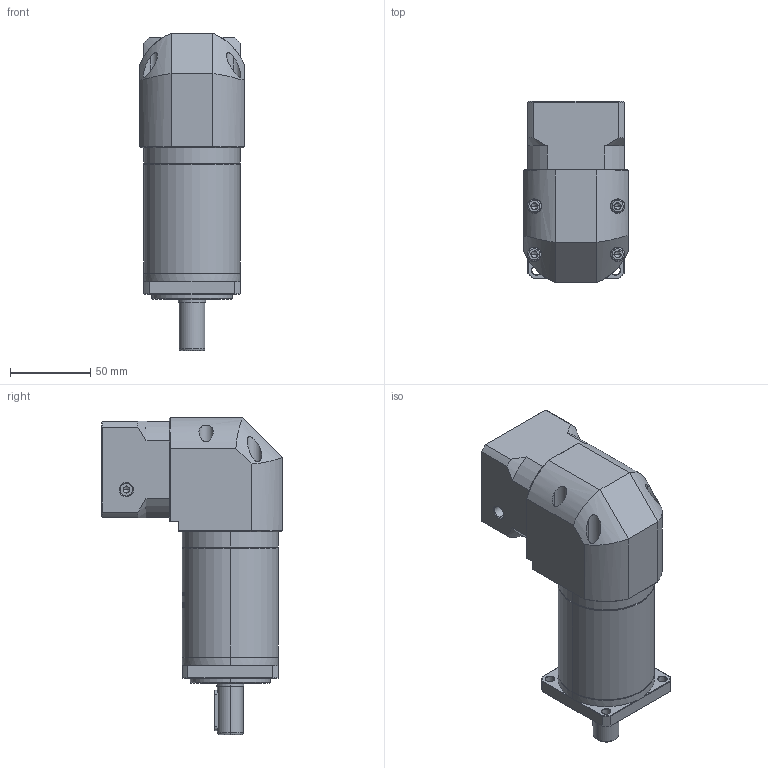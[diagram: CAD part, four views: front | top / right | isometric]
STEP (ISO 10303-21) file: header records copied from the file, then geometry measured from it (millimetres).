
FILE_DESCRIPTION (( 'STEP AP214' ), '1' );
FILE_NAME ('ZFR060-D16-L3-P2-11-50-70-M4.step', '2023-08-17T03:35:40', ( '' ), ( '' ), 'SwSTEP 2.0', 'SolidWorks 2016', '' );
FILE_SCHEMA (( 'AUTOMOTIVE_DESIGN' ));
Length unit declared in the file: millimetre
Products named in the file (1): ZFR060-D16-L3-P2-11-50-70-M4
Bounding box: 65 x 112.7 x 197.5 mm (x, y, z)
Volume: 637814.6 mm3; surface area: 84994.5 mm2
Topology: 5 solids, 6 shells, 1914 faces, 5129 edges, 3312 vertices
Faces by surface type: plane 847, cylinder 399, bspline 354, cone 290, torus 24
Entity records: 104186 total; most frequent: CARTESIAN_POINT 39410, ORIENTED_EDGE 10214, DIRECTION 7648, EDGE_CURVE 5107, VERTEX_POINT 3312, VECTOR 2594, LINE 2594, AXIS2_PLACEMENT_3D 2527
